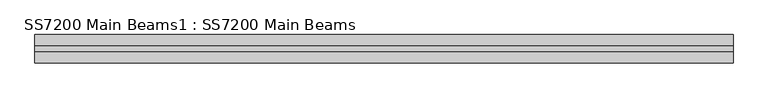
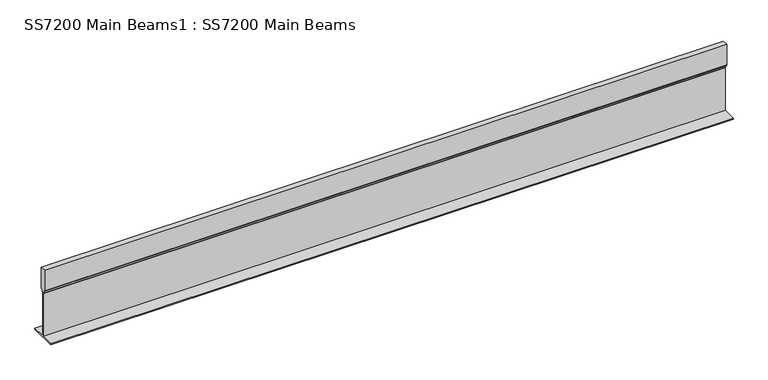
"""IFC4 building model written with IfcOpenShell, lengths in millimetres: beam geometry, SS7200 Main Beams1 : SS7200 Main Beams."""

from ifc_helpers import new_model, si_unit, point, frame, frame_2d, origin, place, context, project, spatial, polyline, circle_curve, trimmed, segment, composite_curve, outline, extrude, source, transform, mapped, element, save


def ss7200_main_beams1_ss7200_main_beams_b51246fc(model_context):
    return source(origin(), model_context, "Body", "SweptSolid", [
        extrude(outline(composite_curve([segment(polyline([(10834.2774293, 3359.6653554), (10784.2774293, 3359.6653554), (10784.2774293, 3361.6497304), (10808.2874293, 3361.6497304), (10808.2874293, 3443.0809876)]), True, "CONTINUOUS"), segment(trimmed(circle_curve(frame_2d((10806.3030543, 3443.0809876)), 1.984375), [point((10808.2874293, 3443.0809876))], [point((10807.979427, 3444.1428345))], True, "CARTESIAN"), True, "CONTINUOUS"), segment(polyline([(10807.979427, 3444.1428345), (10804.8855164, 3449.0272929)]), True, "CONTINUOUS"), segment(trimmed(circle_curve(frame_2d((10807.9230315, 3450.9513139)), 3.5956022), [point((10804.8855164, 3449.0272929))], [point((10804.3274293, 3450.9513139))], False, "CARTESIAN"), True, "CONTINUOUS"), segment(polyline([(10804.3274293, 3450.9513139), (10804.3274293, 3489.6653554), (10814.2274293, 3489.6653554), (10814.2274293, 3450.9513139)]), True, "CONTINUOUS"), segment(trimmed(circle_curve(frame_2d((10810.6318271, 3450.9513139)), 3.5956022), [point((10814.2274293, 3450.9513139))], [point((10813.6693423, 3449.0272929))], False, "CARTESIAN"), True, "CONTINUOUS"), segment(polyline([(10813.6693423, 3449.0272929), (10810.5799523, 3444.1499714)]), True, "CONTINUOUS"), segment(trimmed(circle_curve(frame_2d((10812.2809296, 3443.0725394)), 2.0135002), [point((10810.5799523, 3444.1499714))], [point((10810.2674293, 3443.0725394))], True, "CARTESIAN"), True, "CONTINUOUS"), segment(polyline([(10810.2674293, 3443.0725394), (10810.2674293, 3361.6497304), (10834.2774293, 3361.6497304), (10834.2774293, 3359.6653554)]), True, "CONTINUOUS")], self_intersect=False)), frame((-10069.2108312, 0.0, 0.0), z_axis=(1.0, 0.0, 0.0), x_axis=(0.0, 1.0, 0.0)), (0.0, 0.0, 1.0), 1229.115625),
    ])


if __name__ == "__main__":
    model = new_model("IFC4")
    model_context = context("Model", 3, world=origin())
    ifc_project = project(units=[si_unit("LENGTHUNIT", "METRE", prefix="MILLI")], contexts=[model_context])
    site = spatial("IfcSite", under=ifc_project)
    building = spatial("IfcBuilding", under=site)
    placement = place(None, origin())
    ss7200_main_beams1_ss7200_main_beams_shape = ss7200_main_beams1_ss7200_main_beams_b51246fc(model_context)
    element("IfcBeam", 1, ObjectType="SS7200 Main Beams1 : SS7200 Main Beams", at=placement, inside=building, context=model_context, shape_type="MappedRepresentation", body=[
        mapped(ss7200_main_beams1_ss7200_main_beams_shape, transform((0.0, 0.0, 0.0), x_axis=(1.0, 0.0, 0.0), y_axis=(0.0, 1.0, 0.0), z_axis=(0.0, 0.0, 1.0))),
    ])
    save(model, "model.ifc")
